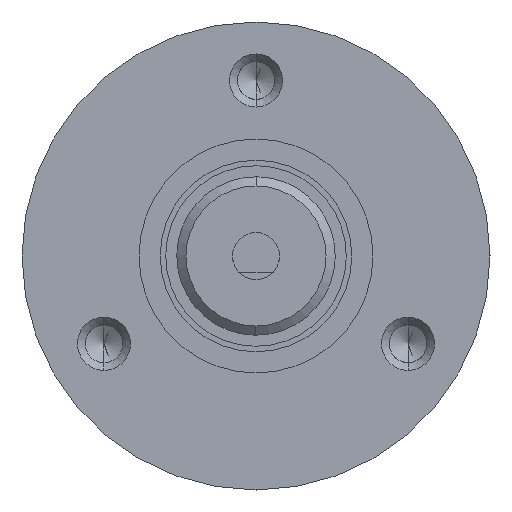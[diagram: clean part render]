
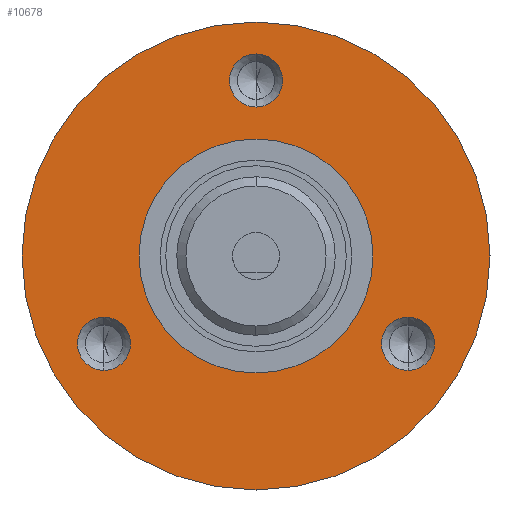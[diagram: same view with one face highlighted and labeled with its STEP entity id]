
A CAD part, left-side view. The second image highlights one B-rep face of the part: STEP entity #10678.
In plain terms, the highlighted planar face has unit normal (-1, 0, 0).
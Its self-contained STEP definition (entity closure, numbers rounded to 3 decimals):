
#33 = DIRECTION ( 'NONE',  ( 1., 0., 0. ) ) ;
#167 = AXIS2_PLACEMENT_3D ( 'NONE', #8359, #2548, #2317 ) ;
#436 = EDGE_CURVE ( 'NONE', #5768, #1978, #4272, .T. ) ;
#503 = EDGE_CURVE ( 'NONE', #6700, #8617, #9812, .T. ) ;
#572 = DIRECTION ( 'NONE',  ( 1., 0., 0. ) ) ;
#573 = FACE_BOUND ( 'NONE', #6152, .T. ) ;
#666 = DIRECTION ( 'NONE',  ( -1., 0., 0. ) ) ;
#741 = CARTESIAN_POINT ( 'NONE',  ( 1.768, 46.048, -11.907 ) ) ;
#1173 = DIRECTION ( 'NONE',  ( 0., 0., 1. ) ) ;
#1336 = ORIENTED_EDGE ( 'NONE', *, *, #14187, .F. ) ;
#1466 = AXIS2_PLACEMENT_3D ( 'NONE', #5604, #6544, #3101 ) ;
#1544 = AXIS2_PLACEMENT_3D ( 'NONE', #14380, #33, #10857 ) ;
#1978 = VERTEX_POINT ( 'NONE', #4450 ) ;
#1994 = DIRECTION ( 'NONE',  ( 1., 0., 0. ) ) ;
#2046 = VERTEX_POINT ( 'NONE', #3438 ) ;
#2317 = DIRECTION ( 'NONE',  ( 0., 0., 1. ) ) ;
#2333 = DIRECTION ( 'NONE',  ( -1., 0., 0. ) ) ;
#2548 = DIRECTION ( 'NONE',  ( -1., 0., 0. ) ) ;
#2908 = FACE_BOUND ( 'NONE', #10702, .T. ) ;
#3021 = CIRCLE ( 'NONE', #14311, 3.603 ) ;
#3069 = EDGE_CURVE ( 'NONE', #9676, #14293, #11700, .T. ) ;
#3101 = DIRECTION ( 'NONE',  ( 0., 0., -1. ) ) ;
#3326 = ORIENTED_EDGE ( 'NONE', *, *, #436, .T. ) ;
#3438 = CARTESIAN_POINT ( 'NONE',  ( 1.768, 25.422, 27.418 ) ) ;
#3991 = CIRCLE ( 'NONE', #14781, 3.603 ) ;
#4076 = PLANE ( 'NONE',  #5171 ) ;
#4117 = CARTESIAN_POINT ( 'NONE',  ( 1.768, 25.423, 15.875 ) ) ;
#4272 = CIRCLE ( 'NONE', #1544, 15.875 ) ;
#4276 = CARTESIAN_POINT ( 'NONE',  ( 1.768, 25.422, 20.212 ) ) ;
#4299 = CARTESIAN_POINT ( 'NONE',  ( 1.768, 25.422, 23.815 ) ) ;
#4450 = CARTESIAN_POINT ( 'NONE',  ( 1.768, 25.423, -15.875 ) ) ;
#4487 = CARTESIAN_POINT ( 'NONE',  ( 1.768, 46.048, -8.304 ) ) ;
#4786 = ORIENTED_EDGE ( 'NONE', *, *, #13397, .F. ) ;
#4874 = CARTESIAN_POINT ( 'NONE',  ( 1.768, 46.048, -15.51 ) ) ;
#4939 = CARTESIAN_POINT ( 'NONE',  ( 1.768, 25.423, 31.75 ) ) ;
#4978 = ORIENTED_EDGE ( 'NONE', *, *, #503, .F. ) ;
#5126 = CARTESIAN_POINT ( 'NONE',  ( 1.768, 4.799, -15.511 ) ) ;
#5171 = AXIS2_PLACEMENT_3D ( 'NONE', #13579, #5333, #8720 ) ;
#5282 = DIRECTION ( 'NONE',  ( 0., 0., 1. ) ) ;
#5333 = DIRECTION ( 'NONE',  ( -1., 0., 0. ) ) ;
#5401 = FACE_BOUND ( 'NONE', #6891, .T. ) ;
#5604 = CARTESIAN_POINT ( 'NONE',  ( 1.768, 25.423, 0. ) ) ;
#5674 = DIRECTION ( 'NONE',  ( 0., 0., -1. ) ) ;
#5768 = VERTEX_POINT ( 'NONE', #4117 ) ;
#5769 = AXIS2_PLACEMENT_3D ( 'NONE', #10563, #1994, #5674 ) ;
#6152 = EDGE_LOOP ( 'NONE', ( #6628, #8845 ) ) ;
#6358 = FACE_OUTER_BOUND ( 'NONE', #8616, .T. ) ;
#6544 = DIRECTION ( 'NONE',  ( 1., 0., 0. ) ) ;
#6574 = ORIENTED_EDGE ( 'NONE', *, *, #13855, .F. ) ;
#6580 = FACE_BOUND ( 'NONE', #14877, .T. ) ;
#6628 = ORIENTED_EDGE ( 'NONE', *, *, #3069, .F. ) ;
#6700 = VERTEX_POINT ( 'NONE', #12440 ) ;
#6701 = CIRCLE ( 'NONE', #1466, 15.875 ) ;
#6891 = EDGE_LOOP ( 'NONE', ( #6574, #10578 ) ) ;
#7089 = CARTESIAN_POINT ( 'NONE',  ( 1.768, 25.422, 23.815 ) ) ;
#7636 = CARTESIAN_POINT ( 'NONE',  ( 1.768, 4.799, -11.908 ) ) ;
#7813 = EDGE_CURVE ( 'NONE', #8196, #14105, #7926, .T. ) ;
#7926 = CIRCLE ( 'NONE', #8201, 3.603 ) ;
#8196 = VERTEX_POINT ( 'NONE', #14321 ) ;
#8201 = AXIS2_PLACEMENT_3D ( 'NONE', #10594, #2333, #1173 ) ;
#8347 = DIRECTION ( 'NONE',  ( -1., 0., 0. ) ) ;
#8359 = CARTESIAN_POINT ( 'NONE',  ( 1.768, 46.048, -11.907 ) ) ;
#8616 = EDGE_LOOP ( 'NONE', ( #4978, #4786 ) ) ;
#8617 = VERTEX_POINT ( 'NONE', #4939 ) ;
#8720 = DIRECTION ( 'NONE',  ( 0., 0., 1. ) ) ;
#8845 = ORIENTED_EDGE ( 'NONE', *, *, #12616, .F. ) ;
#8933 = DIRECTION ( 'NONE',  ( 0., 0., 1. ) ) ;
#9287 = ORIENTED_EDGE ( 'NONE', *, *, #7813, .F. ) ;
#9546 = CIRCLE ( 'NONE', #5769, 31.75 ) ;
#9676 = VERTEX_POINT ( 'NONE', #4487 ) ;
#9696 = DIRECTION ( 'NONE',  ( 0., 0., 1. ) ) ;
#9812 = CIRCLE ( 'NONE', #13060, 31.75 ) ;
#10019 = CIRCLE ( 'NONE', #12009, 3.603 ) ;
#10563 = CARTESIAN_POINT ( 'NONE',  ( 1.768, 25.423, 0. ) ) ;
#10578 = ORIENTED_EDGE ( 'NONE', *, *, #14297, .F. ) ;
#10594 = CARTESIAN_POINT ( 'NONE',  ( 1.768, 4.799, -11.908 ) ) ;
#10678 = ADVANCED_FACE ( 'NONE', ( #5401, #2908, #573, #6580, #6358 ), #4076, .T. ) ;
#10702 = EDGE_LOOP ( 'NONE', ( #9287, #1336 ) ) ;
#10857 = DIRECTION ( 'NONE',  ( 0., 0., -1. ) ) ;
#11265 = ORIENTED_EDGE ( 'NONE', *, *, #11318, .T. ) ;
#11318 = EDGE_CURVE ( 'NONE', #1978, #5768, #6701, .T. ) ;
#11543 = CIRCLE ( 'NONE', #13293, 3.603 ) ;
#11632 = CARTESIAN_POINT ( 'NONE',  ( 1.768, 25.423, 0. ) ) ;
#11700 = CIRCLE ( 'NONE', #167, 3.603 ) ;
#12009 = AXIS2_PLACEMENT_3D ( 'NONE', #741, #666, #12727 ) ;
#12380 = VERTEX_POINT ( 'NONE', #4276 ) ;
#12432 = DIRECTION ( 'NONE',  ( -1., 0., 0. ) ) ;
#12440 = CARTESIAN_POINT ( 'NONE',  ( 1.768, 25.423, -31.75 ) ) ;
#12616 = EDGE_CURVE ( 'NONE', #14293, #9676, #10019, .T. ) ;
#12727 = DIRECTION ( 'NONE',  ( 0., 0., 1. ) ) ;
#13060 = AXIS2_PLACEMENT_3D ( 'NONE', #11632, #572, #13724 ) ;
#13293 = AXIS2_PLACEMENT_3D ( 'NONE', #7089, #8347, #9696 ) ;
#13397 = EDGE_CURVE ( 'NONE', #8617, #6700, #9546, .T. ) ;
#13579 = CARTESIAN_POINT ( 'NONE',  ( 1.768, 41.298, 0. ) ) ;
#13628 = DIRECTION ( 'NONE',  ( -1., 0., 0. ) ) ;
#13724 = DIRECTION ( 'NONE',  ( 0., 0., -1. ) ) ;
#13855 = EDGE_CURVE ( 'NONE', #2046, #12380, #3991, .T. ) ;
#14105 = VERTEX_POINT ( 'NONE', #5126 ) ;
#14187 = EDGE_CURVE ( 'NONE', #14105, #8196, #3021, .T. ) ;
#14293 = VERTEX_POINT ( 'NONE', #4874 ) ;
#14297 = EDGE_CURVE ( 'NONE', #12380, #2046, #11543, .T. ) ;
#14311 = AXIS2_PLACEMENT_3D ( 'NONE', #7636, #12432, #5282 ) ;
#14321 = CARTESIAN_POINT ( 'NONE',  ( 1.768, 4.799, -8.305 ) ) ;
#14380 = CARTESIAN_POINT ( 'NONE',  ( 1.768, 25.423, 0. ) ) ;
#14781 = AXIS2_PLACEMENT_3D ( 'NONE', #4299, #13628, #8933 ) ;
#14877 = EDGE_LOOP ( 'NONE', ( #11265, #3326 ) ) ;
